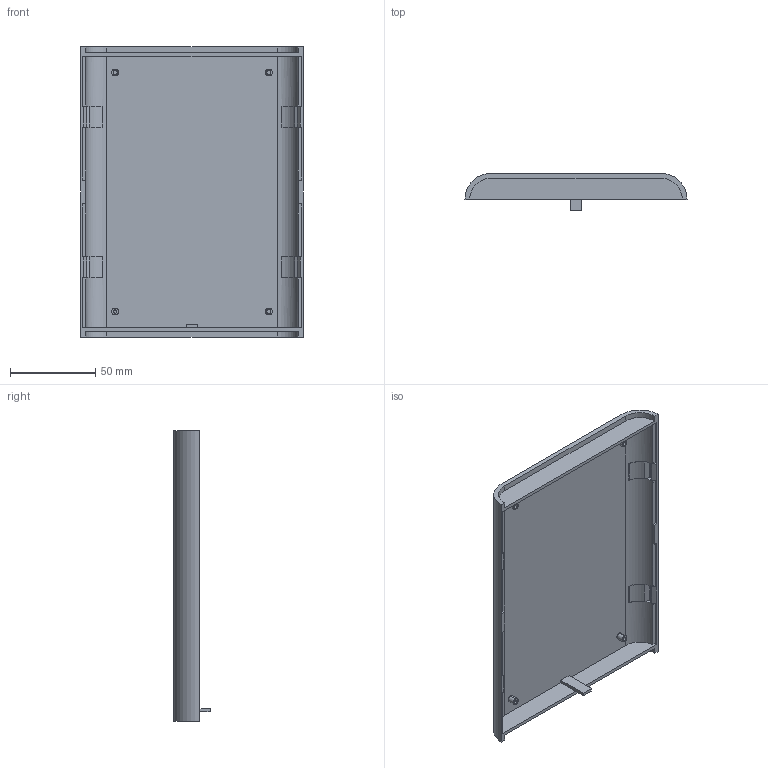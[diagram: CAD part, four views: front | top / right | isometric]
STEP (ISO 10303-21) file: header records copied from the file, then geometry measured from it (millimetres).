
FILE_DESCRIPTION (( 'STEP AP214' ), '1' );
FILE_NAME ('Tapa PP107G.STEP', '2017-08-01T08:13:14', ( 'aaa' ), ( '' ), 'SwSTEP 2.0', 'SolidWorks 2013', '' );
FILE_SCHEMA (( 'AUTOMOTIVE_DESIGN' ));
Length unit declared in the file: millimetre
Products named in the file (1): Tapa PP107G
Bounding box: 130 x 21.3 x 170 mm (x, y, z)
Volume: 59555.4 mm3; surface area: 57213.4 mm2
Topology: 1 solids, 1 shells, 148 faces, 386 edges, 250 vertices
Faces by surface type: plane 112, cylinder 36
Entity records: 4552 total; most frequent: CARTESIAN_POINT 809, DIRECTION 772, ORIENTED_EDGE 772, EDGE_CURVE 386, LINE 282, VECTOR 282, VERTEX_POINT 250, AXIS2_PLACEMENT_3D 245
